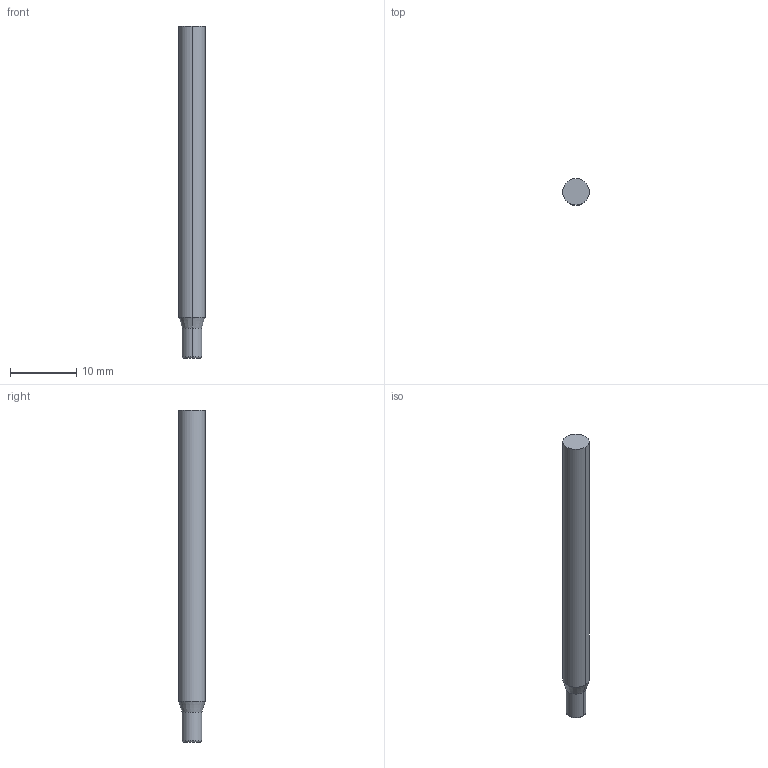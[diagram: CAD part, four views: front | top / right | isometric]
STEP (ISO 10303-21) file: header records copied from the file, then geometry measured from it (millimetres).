
FILE_DESCRIPTION((' '),'2;1');
FILE_NAME( '3MVSM0300R.20AH.stp', '2026-01-21T19:28:05', (' '), ('--- Datakit www.datakit.com---'), ' Datakit CrossCadWare V2025.4 Sep 19 2025', 'Mastercam 2027', ' ');
FILE_SCHEMA(('AUTOMOTIVE_DESIGN { 1 0 10303 214 1 1 1 1 }'));
Length unit declared in the file: inch
Products named in the file (1): 3MVSM0300R
Bounding box: 4 x 4 x 50 mm (x, y, z)
Volume: 598.9 mm3; surface area: 631.3 mm2
Topology: 1 solids, 1 shells, 10 faces, 18 edges, 10 vertices
Faces by surface type: cylinder 4, plane 2, torus 2, cone 2
Entity records: 318 total; most frequent: DIRECTION 60, CARTESIAN_POINT 43, ORIENTED_EDGE 36, AXIS2_PLACEMENT_3D 27, EDGE_CURVE 18, CIRCLE 12, VERTEX_POINT 10, EDGE_LOOP 10
